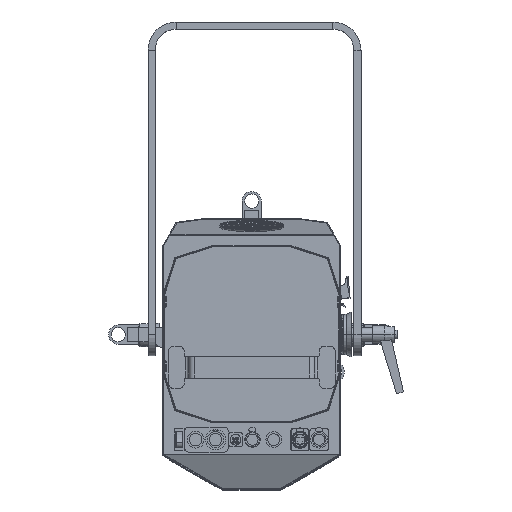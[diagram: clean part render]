
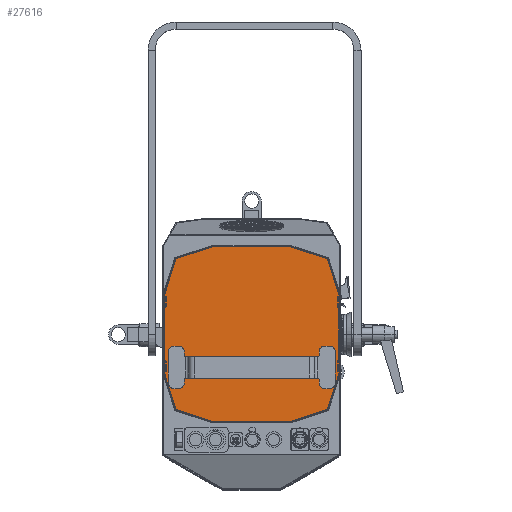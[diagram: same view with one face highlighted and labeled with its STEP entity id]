
A CAD part, top view. The second image highlights one B-rep face of the part: STEP entity #27616.
In plain terms, the highlighted planar face has unit normal (0, 0, 1).
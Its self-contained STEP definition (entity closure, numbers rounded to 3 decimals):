
#1500 = ORIENTED_EDGE ( 'NONE', *, *, #37758, .T. ) ;
#3083 = EDGE_LOOP ( 'NONE', ( #1500, #90668, #13088, #15560, #81033, #61118, #32537, #68685, #13336, #77180, #30936, #13315 ) ) ;
#3139 = CARTESIAN_POINT ( 'NONE',  ( -123., 54.683, 215.3 ) ) ;
#4372 = VERTEX_POINT ( 'NONE', #54882 ) ;
#5020 = CARTESIAN_POINT ( 'NONE',  ( -106.246, -106.246, 215.3 ) ) ;
#5620 = VERTEX_POINT ( 'NONE', #3139 ) ;
#5671 = LINE ( 'NONE', #47840, #32879 ) ;
#6835 = DIRECTION ( 'NONE',  ( 0., 1., 0. ) ) ;
#7571 = LINE ( 'NONE', #92850, #89154 ) ;
#9001 = CARTESIAN_POINT ( 'NONE',  ( 54.683, 123., 215.3 ) ) ;
#10428 = VECTOR ( 'NONE', #20965, 1000. ) ;
#10461 = VECTOR ( 'NONE', #63563, 1000. ) ;
#13088 = ORIENTED_EDGE ( 'NONE', *, *, #31729, .T. ) ;
#13315 = ORIENTED_EDGE ( 'NONE', *, *, #96666, .F. ) ;
#13336 = ORIENTED_EDGE ( 'NONE', *, *, #30789, .T. ) ;
#15560 = ORIENTED_EDGE ( 'NONE', *, *, #73875, .T. ) ;
#16590 = LINE ( 'NONE', #97971, #68530 ) ;
#17055 = VECTOR ( 'NONE', #18803, 1000. ) ;
#17239 = DIRECTION ( 'NONE',  ( 0.951, -0.309, 0. ) ) ;
#18035 = CARTESIAN_POINT ( 'NONE',  ( 54.791, -123., 215.3 ) ) ;
#18803 = DIRECTION ( 'NONE',  ( -1., 0., 0. ) ) ;
#19630 = DIRECTION ( 'NONE',  ( -0.951, -0.309, 0. ) ) ;
#20965 = DIRECTION ( 'NONE',  ( -0.309, 0.951, 0. ) ) ;
#27616 = ADVANCED_FACE ( 'NONE', ( #47830 ), #31485, .F. ) ;
#27883 = LINE ( 'NONE', #56560, #85969 ) ;
#30789 = EDGE_CURVE ( 'NONE', #54366, #70859, #34444, .T. ) ;
#30936 = ORIENTED_EDGE ( 'NONE', *, *, #93869, .F. ) ;
#31485 = PLANE ( 'NONE',  #66673 ) ;
#31522 = LINE ( 'NONE', #70127, #10461 ) ;
#31729 = EDGE_CURVE ( 'NONE', #70715, #99823, #79917, .T. ) ;
#32537 = ORIENTED_EDGE ( 'NONE', *, *, #101212, .F. ) ;
#32879 = VECTOR ( 'NONE', #39860, 1000. ) ;
#33233 = LINE ( 'NONE', #18035, #50578 ) ;
#33798 = CARTESIAN_POINT ( 'NONE',  ( 106.677, 106.106, 215.3 ) ) ;
#34444 = LINE ( 'NONE', #64537, #90038 ) ;
#35469 = DIRECTION ( 'NONE',  ( -0.309, -0.951, 0. ) ) ;
#35830 = CARTESIAN_POINT ( 'NONE',  ( 123.033, 54.581, 215.3 ) ) ;
#37758 = EDGE_CURVE ( 'NONE', #82018, #75791, #66281, .T. ) ;
#37813 = VERTEX_POINT ( 'NONE', #39632 ) ;
#39511 = VERTEX_POINT ( 'NONE', #55213 ) ;
#39632 = CARTESIAN_POINT ( 'NONE',  ( -123., -54.683, 215.3 ) ) ;
#39860 = DIRECTION ( 'NONE',  ( 0.309, -0.951, 0. ) ) ;
#41252 = CARTESIAN_POINT ( 'NONE',  ( -54.683, -123., 215.3 ) ) ;
#45366 = EDGE_CURVE ( 'NONE', #72882, #60055, #31522, .T. ) ;
#45419 = CARTESIAN_POINT ( 'NONE',  ( 123., -54.683, 215.3 ) ) ;
#46252 = CARTESIAN_POINT ( 'NONE',  ( 123., 0., 215.3 ) ) ;
#46595 = DIRECTION ( 'NONE',  ( 0., 1., 0. ) ) ;
#47385 = DIRECTION ( 'NONE',  ( -1., 0., 0. ) ) ;
#47830 = FACE_OUTER_BOUND ( 'NONE', #3083, .T. ) ;
#47840 = CARTESIAN_POINT ( 'NONE',  ( -123.033, -54.581, 215.3 ) ) ;
#50578 = VECTOR ( 'NONE', #65006, 1000. ) ;
#52686 = EDGE_CURVE ( 'NONE', #37813, #54366, #5671, .T. ) ;
#54366 = VERTEX_POINT ( 'NONE', #5020 ) ;
#54882 = CARTESIAN_POINT ( 'NONE',  ( 106.246, -106.246, 215.3 ) ) ;
#55213 = CARTESIAN_POINT ( 'NONE',  ( 54.683, -123., 215.3 ) ) ;
#55788 = CARTESIAN_POINT ( 'NONE',  ( 106.246, 106.246, 215.3 ) ) ;
#56560 = CARTESIAN_POINT ( 'NONE',  ( -123.033, 54.581, 215.3 ) ) ;
#60055 = VERTEX_POINT ( 'NONE', #101629 ) ;
#61118 = ORIENTED_EDGE ( 'NONE', *, *, #89513, .F. ) ;
#63563 = DIRECTION ( 'NONE',  ( 0.951, 0.309, 0. ) ) ;
#64034 = LINE ( 'NONE', #81640, #17055 ) ;
#64151 = DIRECTION ( 'NONE',  ( 0.309, 0.951, 0. ) ) ;
#64537 = CARTESIAN_POINT ( 'NONE',  ( -106.677, -106.106, 215.3 ) ) ;
#65006 = DIRECTION ( 'NONE',  ( -1., 0., 0. ) ) ;
#65612 = CARTESIAN_POINT ( 'NONE',  ( 123., 54.683, 215.3 ) ) ;
#66281 = LINE ( 'NONE', #46252, #71278 ) ;
#66673 = AXIS2_PLACEMENT_3D ( 'NONE', #71168, #86738, #47385 ) ;
#68530 = VECTOR ( 'NONE', #35469, 1000. ) ;
#68685 = ORIENTED_EDGE ( 'NONE', *, *, #52686, .T. ) ;
#69138 = LINE ( 'NONE', #74207, #97572 ) ;
#70127 = CARTESIAN_POINT ( 'NONE',  ( -106.677, 106.106, 215.3 ) ) ;
#70715 = VERTEX_POINT ( 'NONE', #55788 ) ;
#70859 = VERTEX_POINT ( 'NONE', #41252 ) ;
#71168 = CARTESIAN_POINT ( 'NONE',  ( 0., 0., 215.3 ) ) ;
#71278 = VECTOR ( 'NONE', #46595, 1000. ) ;
#72882 = VERTEX_POINT ( 'NONE', #74749 ) ;
#73835 = DIRECTION ( 'NONE',  ( -0.951, 0.309, 0. ) ) ;
#73875 = EDGE_CURVE ( 'NONE', #99823, #60055, #64034, .T. ) ;
#74207 = CARTESIAN_POINT ( 'NONE',  ( 106.677, -106.106, 215.3 ) ) ;
#74749 = CARTESIAN_POINT ( 'NONE',  ( -106.246, 106.246, 215.3 ) ) ;
#75791 = VERTEX_POINT ( 'NONE', #65612 ) ;
#77180 = ORIENTED_EDGE ( 'NONE', *, *, #87244, .F. ) ;
#79917 = LINE ( 'NONE', #33798, #98452 ) ;
#81033 = ORIENTED_EDGE ( 'NONE', *, *, #45366, .F. ) ;
#81640 = CARTESIAN_POINT ( 'NONE',  ( 54.791, 123., 215.3 ) ) ;
#82018 = VERTEX_POINT ( 'NONE', #45419 ) ;
#85969 = VECTOR ( 'NONE', #64151, 1000. ) ;
#86738 = DIRECTION ( 'NONE',  ( 0., 0., -1. ) ) ;
#87079 = LINE ( 'NONE', #35830, #10428 ) ;
#87244 = EDGE_CURVE ( 'NONE', #39511, #70859, #33233, .T. ) ;
#89154 = VECTOR ( 'NONE', #6835, 1000. ) ;
#89513 = EDGE_CURVE ( 'NONE', #5620, #72882, #27883, .T. ) ;
#90038 = VECTOR ( 'NONE', #17239, 1000. ) ;
#90668 = ORIENTED_EDGE ( 'NONE', *, *, #96760, .T. ) ;
#92850 = CARTESIAN_POINT ( 'NONE',  ( -123., 0., 215.3 ) ) ;
#93869 = EDGE_CURVE ( 'NONE', #4372, #39511, #69138, .T. ) ;
#96666 = EDGE_CURVE ( 'NONE', #82018, #4372, #16590, .T. ) ;
#96760 = EDGE_CURVE ( 'NONE', #75791, #70715, #87079, .T. ) ;
#97572 = VECTOR ( 'NONE', #19630, 1000. ) ;
#97971 = CARTESIAN_POINT ( 'NONE',  ( 123.033, -54.581, 215.3 ) ) ;
#98452 = VECTOR ( 'NONE', #73835, 1000. ) ;
#99823 = VERTEX_POINT ( 'NONE', #9001 ) ;
#101212 = EDGE_CURVE ( 'NONE', #37813, #5620, #7571, .T. ) ;
#101629 = CARTESIAN_POINT ( 'NONE',  ( -54.683, 123., 215.3 ) ) ;
